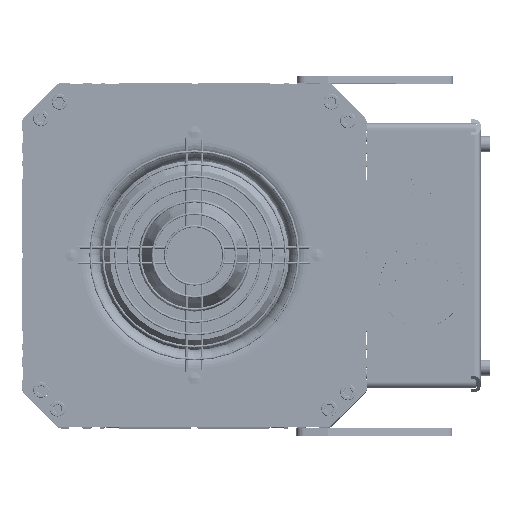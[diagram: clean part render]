
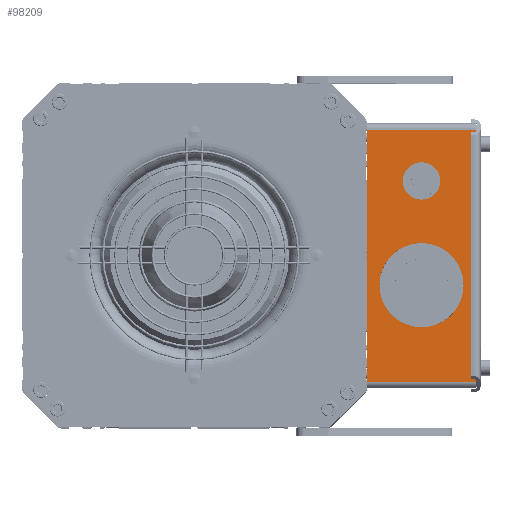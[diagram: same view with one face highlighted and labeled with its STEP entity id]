
A CAD part, top view. The second image highlights one B-rep face of the part: STEP entity #98209.
In plain terms, the highlighted planar face has unit normal (0, 0, 1) as drawn and (1, 0, 0) by its records, which use the part's own axes.
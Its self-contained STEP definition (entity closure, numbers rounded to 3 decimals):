
#96196=DIRECTION('',(0.,0.,-1.));
#96197=VECTOR('',#96196,70.);
#96198=CARTESIAN_POINT('',(80.,-81.,70.));
#96199=LINE('',#96198,#96197);
#96278=DIRECTION('',(0.,0.,1.));
#96279=VECTOR('',#96278,70.);
#96280=CARTESIAN_POINT('',(80.,81.,0.));
#96281=LINE('',#96280,#96279);
#96286=DIRECTION('',(0.,-1.,0.));
#96287=VECTOR('',#96286,162.);
#96288=CARTESIAN_POINT('',(80.,81.,0.));
#96289=LINE('',#96288,#96287);
#96290=CARTESIAN_POINT('',(80.,19.,35.));
#96291=DIRECTION('',(1.,0.,0.));
#96292=DIRECTION('',(0.,0.,1.));
#96293=AXIS2_PLACEMENT_3D('',#96290,#96291,#96292);
#96295=CARTESIAN_POINT('',(80.,19.,35.));
#96296=DIRECTION('',(1.,0.,0.));
#96297=DIRECTION('',(0.,0.,-1.));
#96298=AXIS2_PLACEMENT_3D('',#96295,#96296,#96297);
#96300=CARTESIAN_POINT('',(80.,-48.,35.));
#96301=DIRECTION('',(1.,0.,0.));
#96302=DIRECTION('',(0.,0.,1.));
#96303=AXIS2_PLACEMENT_3D('',#96300,#96301,#96302);
#96305=CARTESIAN_POINT('',(80.,-48.,35.));
#96306=DIRECTION('',(1.,0.,0.));
#96307=DIRECTION('',(0.,0.,-1.));
#96308=AXIS2_PLACEMENT_3D('',#96305,#96306,#96307);
#96315=DIRECTION('',(0.,-1.,0.));
#96316=VECTOR('',#96315,162.);
#96317=CARTESIAN_POINT('',(80.,81.,70.));
#96318=LINE('',#96317,#96316);
#97571=CARTESIAN_POINT('',(80.,-81.,0.));
#97573=VERTEX_POINT('',#97571);
#97574=CARTESIAN_POINT('',(80.,81.,0.));
#97575=VERTEX_POINT('',#97574);
#97608=CARTESIAN_POINT('',(80.,-81.,70.));
#97609=VERTEX_POINT('',#97608);
#97765=CARTESIAN_POINT('',(80.,81.,70.));
#97767=VERTEX_POINT('',#97765);
#97810=CARTESIAN_POINT('',(80.,19.,55.75));
#97811=CARTESIAN_POINT('',(80.,19.,14.25));
#97812=VERTEX_POINT('',#97810);
#97813=VERTEX_POINT('',#97811);
#97814=CARTESIAN_POINT('',(80.,-48.,43.));
#97815=CARTESIAN_POINT('',(80.,-48.,27.));
#97816=VERTEX_POINT('',#97814);
#97817=VERTEX_POINT('',#97815);
#98185=CARTESIAN_POINT('',(80.,-85.,0.));
#98186=DIRECTION('',(1.,0.,0.));
#98187=DIRECTION('',(0.,1.,0.));
#98188=AXIS2_PLACEMENT_3D('',#98185,#98186,#98187);
#98189=PLANE('',#98188);
#98190=ORIENTED_EDGE('',*,*,#98176,.F.);
#98191=ORIENTED_EDGE('',*,*,#98009,.T.);
#98192=ORIENTED_EDGE('',*,*,#98065,.F.);
#98194=ORIENTED_EDGE('',*,*,#98193,.F.);
#98195=EDGE_LOOP('',(#98190,#98191,#98192,#98194));
#98196=FACE_OUTER_BOUND('',#98195,.F.);
#98198=ORIENTED_EDGE('',*,*,#98197,.T.);
#98200=ORIENTED_EDGE('',*,*,#98199,.T.);
#98201=EDGE_LOOP('',(#98198,#98200));
#98202=FACE_BOUND('',#98201,.F.);
#98204=ORIENTED_EDGE('',*,*,#98203,.T.);
#98206=ORIENTED_EDGE('',*,*,#98205,.T.);
#98207=EDGE_LOOP('',(#98204,#98206));
#98208=FACE_BOUND('',#98207,.F.);
#96294=CIRCLE('',#96293,20.75);
#96299=CIRCLE('',#96298,20.75);
#96304=CIRCLE('',#96303,8.);
#96309=CIRCLE('',#96308,8.);
#98009=EDGE_CURVE('',#97575,#97573,#96289,.T.);
#98065=EDGE_CURVE('',#97609,#97573,#96199,.T.);
#98176=EDGE_CURVE('',#97575,#97767,#96281,.T.);
#98193=EDGE_CURVE('',#97767,#97609,#96318,.T.);
#98197=EDGE_CURVE('',#97812,#97813,#96294,.T.);
#98199=EDGE_CURVE('',#97813,#97812,#96299,.T.);
#98203=EDGE_CURVE('',#97816,#97817,#96304,.T.);
#98205=EDGE_CURVE('',#97817,#97816,#96309,.T.);
#98209=ADVANCED_FACE('',(#98196,#98202,#98208),#98189,.T.);
